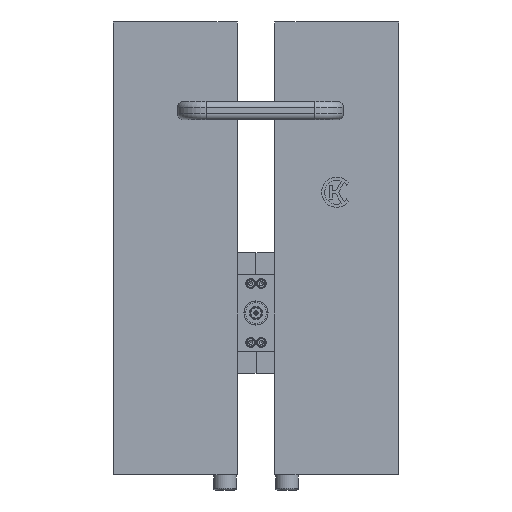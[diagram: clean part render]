
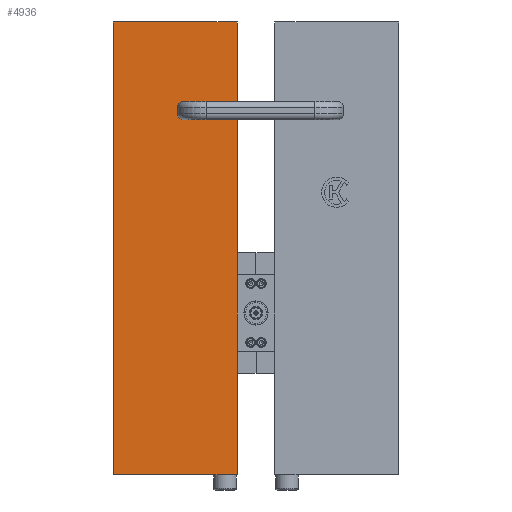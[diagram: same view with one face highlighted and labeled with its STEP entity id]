
A CAD part, front view. The second image highlights one B-rep face of the part: STEP entity #4936.
In plain terms, the highlighted planar face has unit normal (0, -1, 0) as drawn and (-1, 0, 0) by its records, which use the part's own axes.
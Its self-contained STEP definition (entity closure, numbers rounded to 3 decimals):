
#4936=ADVANCED_FACE('',(#9122),#9124,.T.);
#9122=FACE_BOUND('',#9123,.T.);
#9123=EDGE_LOOP('',(#13689,#13690,#13691,#13692));
#9124=PLANE('',#9125);
#9125=AXIS2_PLACEMENT_3D('',#9126,#9127,#9128);
#9126=CARTESIAN_POINT('',(-150.,0.,-150.));
#9127=DIRECTION('',(-1.,0.,0.));
#9128=DIRECTION('',(0.,-1.,0.));
#13689=ORIENTED_EDGE('',*,*,#15326,.T.);
#13690=ORIENTED_EDGE('',*,*,#15556,.T.);
#13691=ORIENTED_EDGE('',*,*,#15346,.F.);
#13692=ORIENTED_EDGE('',*,*,#15328,.F.);
#15326=EDGE_CURVE('',#17250,#17248,#17251,.T.);
#15328=EDGE_CURVE('',#17250,#17253,#17254,.T.);
#15346=EDGE_CURVE('',#17253,#17288,#17289,.T.);
#15556=EDGE_CURVE('',#17248,#17288,#17611,.T.);
#17248=VERTEX_POINT('',#21300);
#17250=VERTEX_POINT('',#21304);
#17251=LINE('',#21305,#21306);
#17253=VERTEX_POINT('',#21311);
#17254=LINE('',#21312,#21313);
#17288=VERTEX_POINT('',#21398);
#17289=LINE('',#21399,#21400);
#17611=LINE('',#22157,#22158);
#21300=CARTESIAN_POINT('',(-150.,-82.,-150.));
#21304=CARTESIAN_POINT('',(-150.,0.,-150.));
#21305=CARTESIAN_POINT('',(-150.,0.,-150.));
#21306=VECTOR('',#21307,1.);
#21307=DIRECTION('',(0.,-1.,0.));
#21311=CARTESIAN_POINT('',(-150.,0.,150.));
#21312=CARTESIAN_POINT('',(-150.,0.,-150.));
#21313=VECTOR('',#21314,1.);
#21314=DIRECTION('',(0.,0.,1.));
#21398=CARTESIAN_POINT('',(-150.,-82.,150.));
#21399=CARTESIAN_POINT('',(-150.,0.,150.));
#21400=VECTOR('',#21401,1.);
#21401=DIRECTION('',(0.,-1.,0.));
#22157=CARTESIAN_POINT('',(-150.,-82.,-150.));
#22158=VECTOR('',#22159,1.);
#22159=DIRECTION('',(0.,0.,1.));
